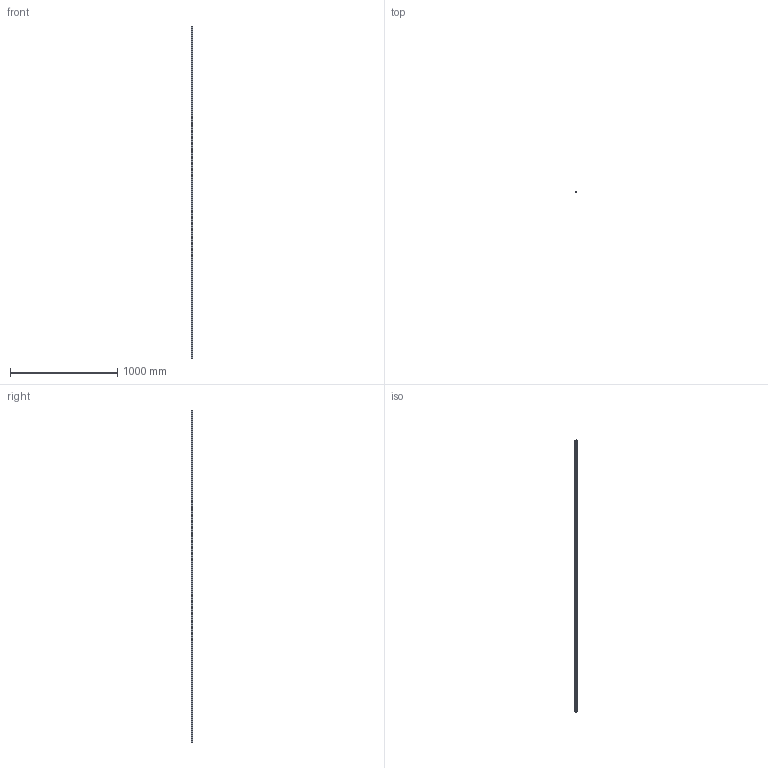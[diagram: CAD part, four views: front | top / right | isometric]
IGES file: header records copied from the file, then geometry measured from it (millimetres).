
Start section: SolidWorks IGES file using analytic representation for surfaces
Global section: file name: C:\Users\IanO\Desktop\L1016_v2\L1016.BL15_v2\L1016.BL15_v2_20190611_IGES\L1016.BL15-3100.igs; native system: SolidWorks 2017; preprocessor: SolidWorks 2017; author: IanO; date: 190612.123500; units: millimetre
Bounding box: 15 x 13 x 3100 mm (x, y, z)
Surface area: 189309.4 mm2 (no closed solid volume)
Topology: 0 solids, 0 shells, 286 faces, 7640 edges, 7640 vertices
Faces by surface type: revolution 212, bspline 74
